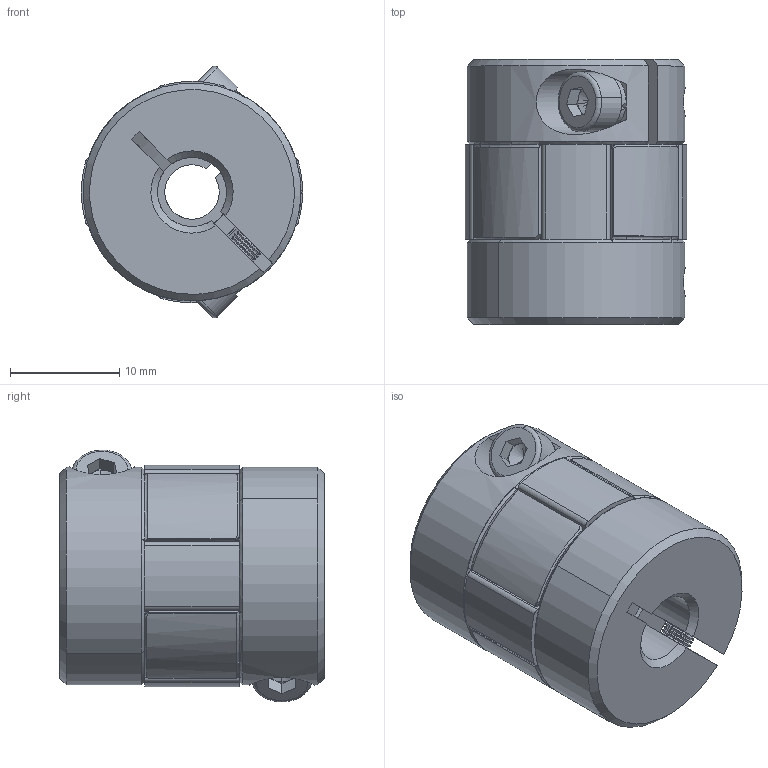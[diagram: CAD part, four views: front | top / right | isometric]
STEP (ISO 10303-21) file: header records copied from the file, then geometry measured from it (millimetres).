
FILE_DESCRIPTION (( 'STEP AP203' ), '1' );
FILE_NAME ('LF-B-D20L25-5-6.35.STEP', '2021-10-20T01:20:33', ( '' ), ( '' ), 'SwSTEP 2.0', 'SolidWorks 2018', '' );
FILE_SCHEMA (( 'CONFIG_CONTROL_DESIGN' ));
Length unit declared in the file: millimetre
Products named in the file (1): LF-B-D20L25-5-6.35
Bounding box: 20.31 x 24.3 x 23.09 mm (x, y, z)
Volume: 6631.7 mm3; surface area: 3575.7 mm2
Topology: 1 solids, 1 shells, 431 faces, 1076 edges, 637 vertices
Faces by surface type: cylinder 167, cone 158, plane 94, torus 12
Entity records: 13178 total; most frequent: CARTESIAN_POINT 2731, DIRECTION 2331, ORIENTED_EDGE 2144, EDGE_CURVE 1072, AXIS2_PLACEMENT_3D 959, VERTEX_POINT 637, CIRCLE 527, EDGE_LOOP 447
